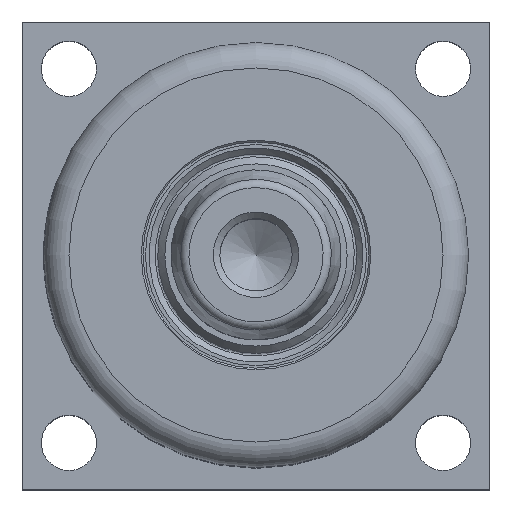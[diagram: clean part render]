
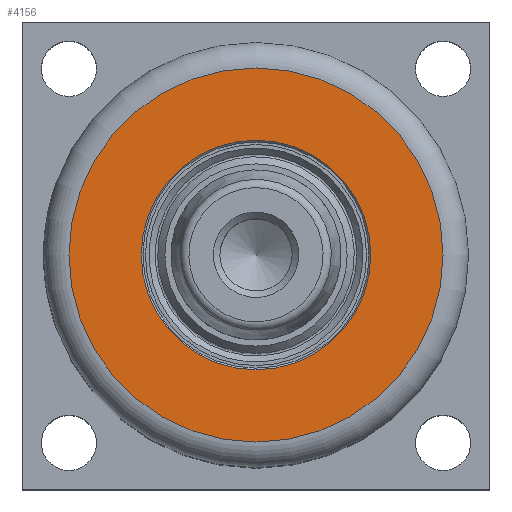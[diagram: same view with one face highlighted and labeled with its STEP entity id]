
A CAD part, top view. The second image highlights one B-rep face of the part: STEP entity #4156.
In plain terms, the highlighted planar face has unit normal (0, 0, 1).
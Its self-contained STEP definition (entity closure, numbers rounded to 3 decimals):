
#143=PLANE('',#4538);
#218=FACE_BOUND('',#1064,.T.);
#789=FACE_OUTER_BOUND('',#1063,.T.);
#1063=EDGE_LOOP('',(#2929));
#1064=EDGE_LOOP('',(#2930));
#1515=CIRCLE('',#4493,13.5);
#1532=CIRCLE('',#4518,22.);
#1742=VERTEX_POINT('',#6266);
#1758=VERTEX_POINT('',#6314);
#2165=EDGE_CURVE('',#1742,#1742,#1515,.T.);
#2189=EDGE_CURVE('',#1758,#1758,#1532,.T.);
#2929=ORIENTED_EDGE('',*,*,#2189,.T.);
#2930=ORIENTED_EDGE('',*,*,#2165,.T.);
#4156=ADVANCED_FACE('',(#789,#218),#143,.F.);
#4493=AXIS2_PLACEMENT_3D('',#6268,#5013,#5014);
#4518=AXIS2_PLACEMENT_3D('',#6316,#5070,#5071);
#4538=AXIS2_PLACEMENT_3D('',#6391,#5132,#5133);
#5013=DIRECTION('center_axis',(0.,0.,-1.));
#5014=DIRECTION('ref_axis',(-1.,0.,0.));
#5070=DIRECTION('center_axis',(0.,0.,1.));
#5071=DIRECTION('ref_axis',(-1.,0.,0.));
#5132=DIRECTION('center_axis',(0.,0.,-1.));
#5133=DIRECTION('ref_axis',(-1.,0.,0.));
#6266=CARTESIAN_POINT('',(14.,27.5,78.));
#6268=CARTESIAN_POINT('Origin',(27.5,27.5,78.));
#6314=CARTESIAN_POINT('',(49.5,27.5,78.));
#6316=CARTESIAN_POINT('Origin',(27.5,27.5,78.));
#6391=CARTESIAN_POINT('Origin',(0.,0.,78.));
